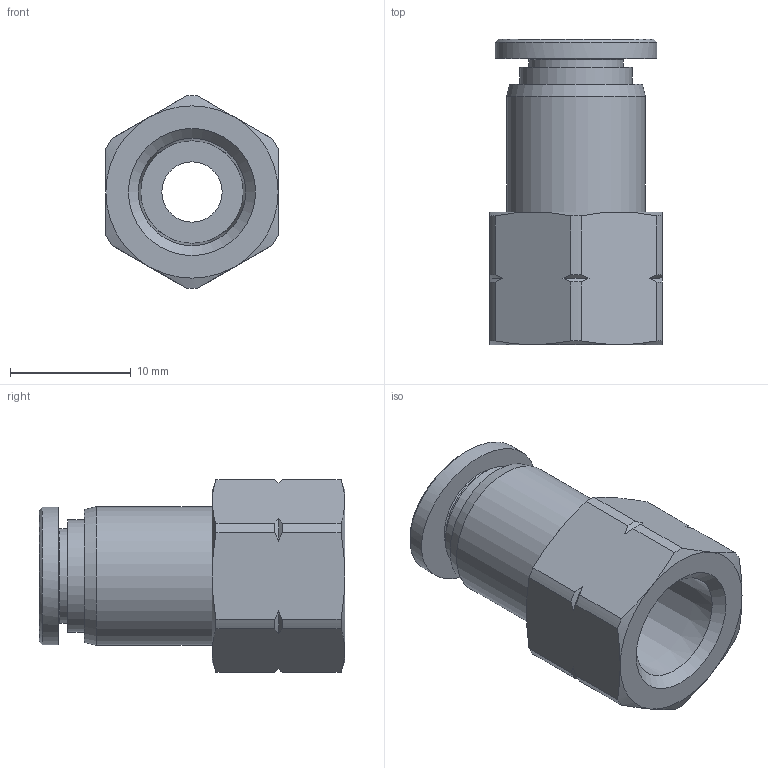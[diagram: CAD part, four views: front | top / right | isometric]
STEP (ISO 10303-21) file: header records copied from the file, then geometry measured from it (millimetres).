
FILE_DESCRIPTION((''),'2;1');
FILE_NAME('C:\Users\user0117\Desktop\김진일\홈페이지\1_4\Internet\GPCF 1_4-N01U.stp','2019-09-02T10:02:30',('user0117'),(''),'Autodesk Inventor 2013','Autodesk Inventor 2013','');
FILE_SCHEMA(('AUTOMOTIVE_DESIGN { 1 0 10303 214 1 1 1 1 }'));
Length unit declared in the file: millimetre
Products named in the file (5): GPCF 1_4-N01U; GPCF 1-4 N01(BRASS); G-COLLAR G1-4C; COLLAR G1-4C; SLEEVE G1-4
Assembly tree (4 placements, depth 3):
  GPCF 1_4-N01U
    GPCF 1-4 N01(BRASS)
    G-COLLAR G1-4C
      COLLAR G1-4C
      SLEEVE G1-4
Bounding box: 14.29 x 25.35 x 16 mm (x, y, z)
Volume: 2264.9 mm3; surface area: 2136.8 mm2
Topology: 3 solids, 3 shells, 181 faces, 464 edges, 305 vertices
Faces by surface type: plane 105, cone 29, cylinder 25, bspline 22
Full cylindrical faces by diameter (mm): 5 x1, 6.55 x3, 7.85 x1, 9.3 x1, 11.5 x1
Entity records: 5826 total; most frequent: CARTESIAN_POINT 1479, ORIENTED_EDGE 894, DIRECTION 839, EDGE_CURVE 447, VERTEX_POINT 301, VECTOR 281, LINE 281, AXIS2_PLACEMENT_3D 279
